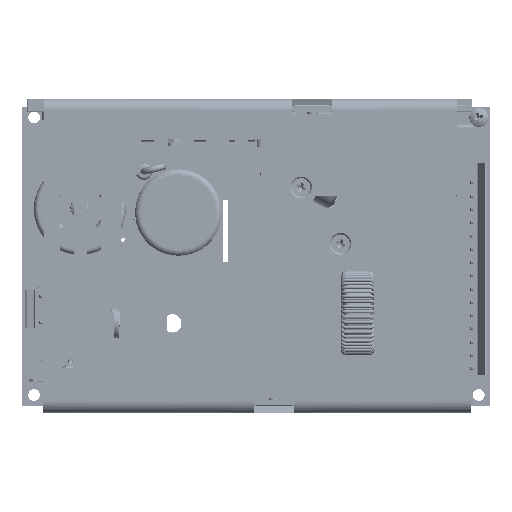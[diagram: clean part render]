
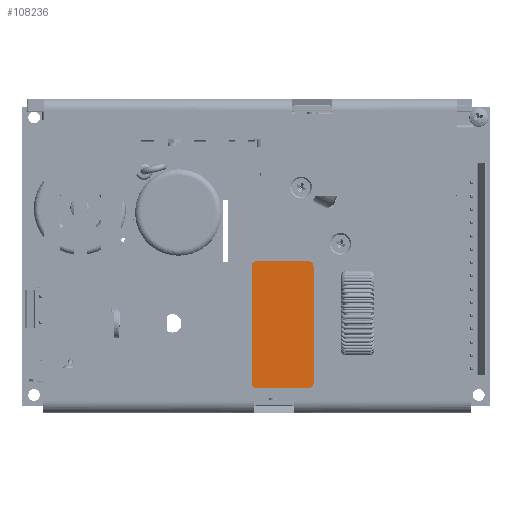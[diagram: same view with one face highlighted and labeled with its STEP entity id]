
A CAD part, top view. The second image highlights one B-rep face of the part: STEP entity #108236.
In plain terms, the highlighted planar face has unit normal (0, 0, 1) as drawn and (0, 1, 0) by its records, which use the part's own axes.
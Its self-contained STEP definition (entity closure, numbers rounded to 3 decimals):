
#28 = AXIS2_PLACEMENT_3D ( 'NONE', #108570, #21470, #12069 ) ;
#3689 = DIRECTION ( 'NONE',  ( 1., 0., 0. ) ) ;
#4484 = CIRCLE ( 'NONE', #39887, 1.5 ) ;
#8229 = EDGE_CURVE ( 'NONE', #55070, #66570, #34812, .T. ) ;
#8966 = DIRECTION ( 'NONE',  ( 0., 1., 0. ) ) ;
#9026 = VERTEX_POINT ( 'NONE', #10171 ) ;
#9361 = CARTESIAN_POINT ( 'NONE',  ( 1.5, 0.1, -17. ) ) ;
#9423 = AXIS2_PLACEMENT_3D ( 'NONE', #11455, #51574, #42900 ) ;
#10171 = CARTESIAN_POINT ( 'NONE',  ( 1.5, 0.1, 0. ) ) ;
#10527 = ORIENTED_EDGE ( 'NONE', *, *, #38082, .T. ) ;
#10871 = CARTESIAN_POINT ( 'NONE',  ( 1.5, 0.1, -18.5 ) ) ;
#11455 = CARTESIAN_POINT ( 'NONE',  ( 1.5, 0.1, -1.5 ) ) ;
#12069 = DIRECTION ( 'NONE',  ( 0., 0., -1. ) ) ;
#12783 = CARTESIAN_POINT ( 'NONE',  ( 36.5, 0.1, -17. ) ) ;
#12895 = EDGE_LOOP ( 'NONE', ( #10527, #70835, #75576, #70536, #79799, #68879, #110131, #106809 ) ) ;
#15840 = VERTEX_POINT ( 'NONE', #16845 ) ;
#16845 = CARTESIAN_POINT ( 'NONE',  ( 0., 0.1, -17. ) ) ;
#17317 = EDGE_CURVE ( 'NONE', #17326, #9026, #59981, .T. ) ;
#17326 = VERTEX_POINT ( 'NONE', #103806 ) ;
#17688 = CIRCLE ( 'NONE', #89227, 1.5 ) ;
#19780 = VERTEX_POINT ( 'NONE', #111820 ) ;
#21470 = DIRECTION ( 'NONE',  ( 0., -1., 0. ) ) ;
#22432 = DIRECTION ( 'NONE',  ( 0., 0., 1. ) ) ;
#25308 = VECTOR ( 'NONE', #107649, 1000. ) ;
#28271 = LINE ( 'NONE', #39205, #96359 ) ;
#29931 = EDGE_CURVE ( 'NONE', #66570, #15840, #17688, .T. ) ;
#31271 = DIRECTION ( 'NONE',  ( 0., 0., -1. ) ) ;
#33530 = CARTESIAN_POINT ( 'NONE',  ( 36.5, 0.1, -1.5 ) ) ;
#34812 = LINE ( 'NONE', #48178, #25308 ) ;
#38060 = AXIS2_PLACEMENT_3D ( 'NONE', #33530, #104300, #93991 ) ;
#38082 = EDGE_CURVE ( 'NONE', #19780, #55070, #4484, .T. ) ;
#39205 = CARTESIAN_POINT ( 'NONE',  ( 38., 0.1, -1.5 ) ) ;
#39887 = AXIS2_PLACEMENT_3D ( 'NONE', #12783, #73467, #31271 ) ;
#42299 = LINE ( 'NONE', #64871, #45003 ) ;
#42900 = DIRECTION ( 'NONE',  ( 0., 0., -1. ) ) ;
#45003 = VECTOR ( 'NONE', #22432, 1000. ) ;
#48178 = CARTESIAN_POINT ( 'NONE',  ( 1.5, 0.1, -18.5 ) ) ;
#51574 = DIRECTION ( 'NONE',  ( 0., 1., 0. ) ) ;
#51628 = EDGE_CURVE ( 'NONE', #9026, #107748, #98019, .T. ) ;
#55070 = VERTEX_POINT ( 'NONE', #67587 ) ;
#56042 = CARTESIAN_POINT ( 'NONE',  ( 1.5, 0.1, 0. ) ) ;
#58990 = CARTESIAN_POINT ( 'NONE',  ( 38., 0.1, -1.5 ) ) ;
#59981 = CIRCLE ( 'NONE', #9423, 1.5 ) ;
#64564 = DIRECTION ( 'NONE',  ( 0., 0., -1. ) ) ;
#64871 = CARTESIAN_POINT ( 'NONE',  ( 0., 0.1, -1.5 ) ) ;
#66570 = VERTEX_POINT ( 'NONE', #10871 ) ;
#67587 = CARTESIAN_POINT ( 'NONE',  ( 36.5, 0.1, -18.5 ) ) ;
#68879 = ORIENTED_EDGE ( 'NONE', *, *, #51628, .T. ) ;
#69279 = PLANE ( 'NONE',  #28 ) ;
#70536 = ORIENTED_EDGE ( 'NONE', *, *, #79555, .T. ) ;
#70738 = DIRECTION ( 'NONE',  ( 0., 0., -1. ) ) ;
#70835 = ORIENTED_EDGE ( 'NONE', *, *, #8229, .T. ) ;
#72075 = VECTOR ( 'NONE', #3689, 1000. ) ;
#73467 = DIRECTION ( 'NONE',  ( 0., 1., 0. ) ) ;
#75576 = ORIENTED_EDGE ( 'NONE', *, *, #29931, .T. ) ;
#77174 = EDGE_CURVE ( 'NONE', #107748, #99691, #92091, .T. ) ;
#79555 = EDGE_CURVE ( 'NONE', #15840, #17326, #42299, .T. ) ;
#79799 = ORIENTED_EDGE ( 'NONE', *, *, #17317, .T. ) ;
#81594 = CARTESIAN_POINT ( 'NONE',  ( 36.5, 0.1, 0. ) ) ;
#89227 = AXIS2_PLACEMENT_3D ( 'NONE', #9361, #8966, #70738 ) ;
#92091 = CIRCLE ( 'NONE', #38060, 1.5 ) ;
#93991 = DIRECTION ( 'NONE',  ( 0., 0., 1. ) ) ;
#95803 = FACE_OUTER_BOUND ( 'NONE', #12895, .T. ) ;
#96359 = VECTOR ( 'NONE', #64564, 1000. ) ;
#98019 = LINE ( 'NONE', #56042, #72075 ) ;
#99691 = VERTEX_POINT ( 'NONE', #58990 ) ;
#101104 = EDGE_CURVE ( 'NONE', #99691, #19780, #28271, .T. ) ;
#103806 = CARTESIAN_POINT ( 'NONE',  ( 0., 0.1, -1.5 ) ) ;
#104300 = DIRECTION ( 'NONE',  ( 0., 1., 0. ) ) ;
#106809 = ORIENTED_EDGE ( 'NONE', *, *, #101104, .T. ) ;
#107649 = DIRECTION ( 'NONE',  ( -1., 0., 0. ) ) ;
#107748 = VERTEX_POINT ( 'NONE', #81594 ) ;
#108236 = ADVANCED_FACE ( 'NONE', ( #95803 ), #69279, .F. ) ;
#108570 = CARTESIAN_POINT ( 'NONE',  ( 36.5, 0.1, -17. ) ) ;
#110131 = ORIENTED_EDGE ( 'NONE', *, *, #77174, .T. ) ;
#111820 = CARTESIAN_POINT ( 'NONE',  ( 38., 0.1, -17. ) ) ;
